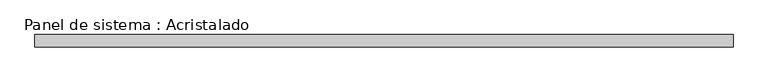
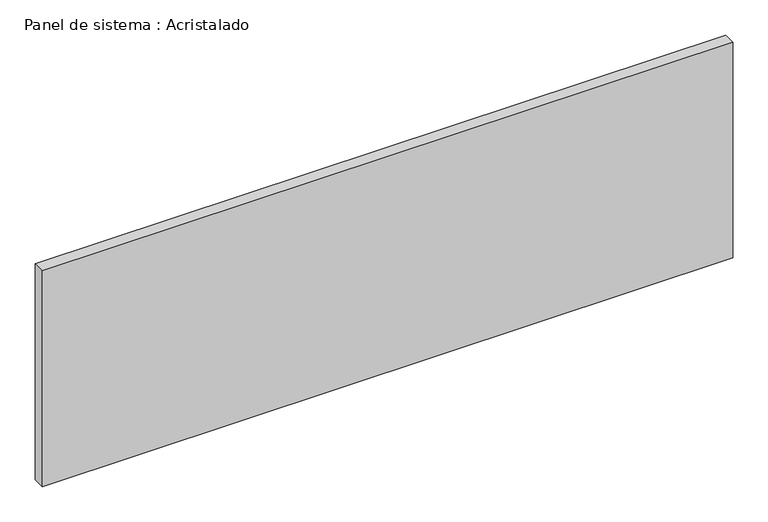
"""IFC4 building model written with IfcOpenShell, lengths in millimetres: plate geometry, Panel de sistema : Acristalado."""

from ifc_helpers import new_model, si_unit, origin, origin_with_axes, place, context, project, spatial, polyline, outline, extrude, source, transform, mapped, element, save


def panel_de_sistema_acristalado_83ddf08f(model_context):
    return source(origin(), model_context, "Body", "SweptSolid", [
        extrude(outline(polyline([(567.5, -10.0), (-567.5, -10.0), (-567.5, 10.0), (567.5, 10.0), (567.5, -10.0)])), origin_with_axes(), (0.0, 0.0, 1.0), 375.0),
    ])


if __name__ == "__main__":
    model = new_model("IFC4")
    model_context = context("Model", 3, world=origin())
    ifc_project = project(units=[si_unit("LENGTHUNIT", "METRE", prefix="MILLI")], contexts=[model_context])
    site = spatial("IfcSite", under=ifc_project)
    building = spatial("IfcBuilding", under=site)
    placement = place(None, origin())
    panel_de_sistema_acristalado_shape = panel_de_sistema_acristalado_83ddf08f(model_context)
    element("IfcPlate", 1, ObjectType="Panel de sistema : Acristalado", at=placement, inside=building, context=model_context, shape_type="MappedRepresentation", body=[
        mapped(panel_de_sistema_acristalado_shape, transform((0.0, 0.0, 0.0), x_axis=(1.0, 0.0, 0.0), y_axis=(0.0, 1.0, 0.0), z_axis=(0.0, 0.0, 1.0))),
    ])
    save(model, "model.ifc")
